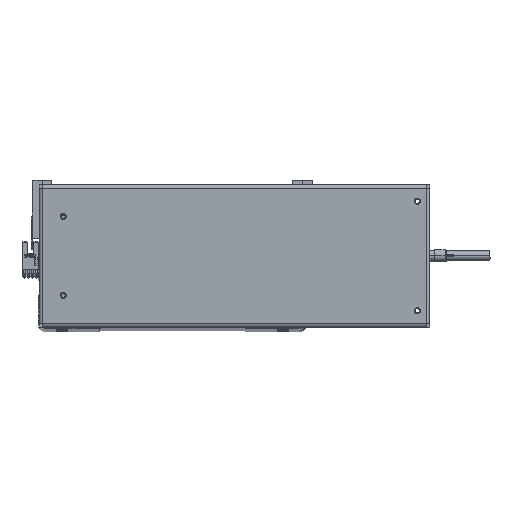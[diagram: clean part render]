
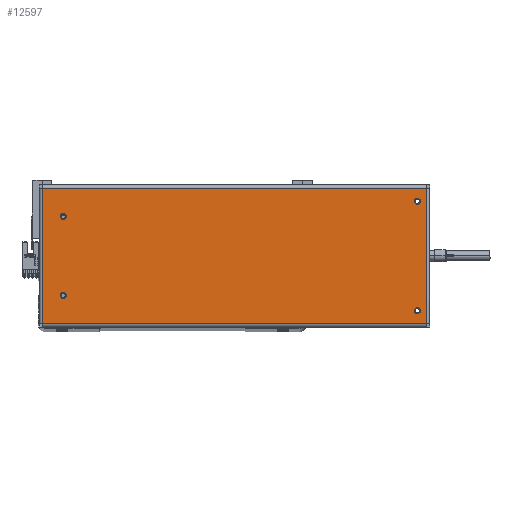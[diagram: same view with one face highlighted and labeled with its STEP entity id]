
A CAD part, top view. The second image highlights one B-rep face of the part: STEP entity #12597.
In plain terms, the highlighted planar face has unit normal (0, 0, 1).
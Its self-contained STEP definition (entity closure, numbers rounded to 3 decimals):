
#33 = CARTESIAN_POINT ( 'NONE',  ( -143., 32.5, 0. ) ) ;
#132 = CARTESIAN_POINT ( 'NONE',  ( 153., 45., 0. ) ) ;
#420 = CARTESIAN_POINT ( 'NONE',  ( -157.6, 55.6, 0. ) ) ;
#460 = ORIENTED_EDGE ( 'NONE', *, *, #26287, .T. ) ;
#591 = VERTEX_POINT ( 'NONE', #420 ) ;
#1467 = AXIS2_PLACEMENT_3D ( 'NONE', #9040, #41381, #41653 ) ;
#1519 = ORIENTED_EDGE ( 'NONE', *, *, #21870, .F. ) ;
#2337 = CARTESIAN_POINT ( 'NONE',  ( 148., 45., 0. ) ) ;
#3926 = FACE_BOUND ( 'NONE', #29352, .T. ) ;
#3999 = CIRCLE ( 'NONE', #24895, 2.5 ) ;
#4596 = VERTEX_POINT ( 'NONE', #38016 ) ;
#5032 = EDGE_LOOP ( 'NONE', ( #25199, #460, #21570, #38828 ) ) ;
#5608 = ORIENTED_EDGE ( 'NONE', *, *, #35307, .F. ) ;
#6142 = CARTESIAN_POINT ( 'NONE',  ( 157.6, 55.6, 0. ) ) ;
#6228 = CIRCLE ( 'NONE', #16971, 2.5 ) ;
#6296 = ORIENTED_EDGE ( 'NONE', *, *, #17192, .F. ) ;
#6563 = VECTOR ( 'NONE', #24400, 1000. ) ;
#7086 = VECTOR ( 'NONE', #14244, 1000. ) ;
#7295 = VERTEX_POINT ( 'NONE', #22935 ) ;
#7605 = DIRECTION ( 'NONE',  ( 1., 0., 0. ) ) ;
#7671 = VECTOR ( 'NONE', #28373, 1000. ) ;
#8060 = CARTESIAN_POINT ( 'NONE',  ( -140.5, 32.5, 0. ) ) ;
#8375 = DIRECTION ( 'NONE',  ( 0., 0., 1. ) ) ;
#8513 = FACE_OUTER_BOUND ( 'NONE', #5032, .T. ) ;
#9040 = CARTESIAN_POINT ( 'NONE',  ( 157.7, 58.5, 0. ) ) ;
#9052 = DIRECTION ( 'NONE',  ( 1., 0., 0. ) ) ;
#9090 = VERTEX_POINT ( 'NONE', #132 ) ;
#9203 = DIRECTION ( 'NONE',  ( 0., 0., 1. ) ) ;
#9253 = EDGE_LOOP ( 'NONE', ( #14643, #32712 ) ) ;
#12553 = DIRECTION ( 'NONE',  ( 0., 0., 1. ) ) ;
#12597 = ADVANCED_FACE ( 'NONE', ( #18180, #32327, #16138, #3926, #8513 ), #19088, .F. ) ;
#12765 = VERTEX_POINT ( 'NONE', #33 ) ;
#12825 = CARTESIAN_POINT ( 'NONE',  ( -140.5, -32.5, 0. ) ) ;
#13238 = CIRCLE ( 'NONE', #35473, 2.5 ) ;
#13806 = VERTEX_POINT ( 'NONE', #20455 ) ;
#14212 = LINE ( 'NONE', #24115, #6563 ) ;
#14244 = DIRECTION ( 'NONE',  ( 1., 0., 0. ) ) ;
#14643 = ORIENTED_EDGE ( 'NONE', *, *, #39527, .F. ) ;
#15633 = CARTESIAN_POINT ( 'NONE',  ( 148., -45., 0. ) ) ;
#15763 = CARTESIAN_POINT ( 'NONE',  ( -157.6, 55.6, 0. ) ) ;
#16084 = DIRECTION ( 'NONE',  ( 1., 0., 0. ) ) ;
#16138 = FACE_BOUND ( 'NONE', #33508, .T. ) ;
#16853 = VERTEX_POINT ( 'NONE', #15633 ) ;
#16971 = AXIS2_PLACEMENT_3D ( 'NONE', #18219, #21618, #40912 ) ;
#17192 = EDGE_CURVE ( 'NONE', #37898, #9090, #30209, .T. ) ;
#18180 = FACE_BOUND ( 'NONE', #9253, .T. ) ;
#18219 = CARTESIAN_POINT ( 'NONE',  ( -140.5, -32.5, 0. ) ) ;
#19088 = PLANE ( 'NONE',  #1467 ) ;
#20181 = CIRCLE ( 'NONE', #39654, 2.5 ) ;
#20235 = ORIENTED_EDGE ( 'NONE', *, *, #22211, .F. ) ;
#20455 = CARTESIAN_POINT ( 'NONE',  ( -143., -32.5, 0. ) ) ;
#20677 = ORIENTED_EDGE ( 'NONE', *, *, #23255, .F. ) ;
#21023 = VERTEX_POINT ( 'NONE', #37982 ) ;
#21246 = AXIS2_PLACEMENT_3D ( 'NONE', #8060, #34538, #37404 ) ;
#21391 = CARTESIAN_POINT ( 'NONE',  ( 150.5, -45., 0. ) ) ;
#21570 = ORIENTED_EDGE ( 'NONE', *, *, #32505, .T. ) ;
#21618 = DIRECTION ( 'NONE',  ( 0., 0., 1. ) ) ;
#21870 = EDGE_CURVE ( 'NONE', #9090, #37898, #13238, .T. ) ;
#22211 = EDGE_CURVE ( 'NONE', #21023, #12765, #3999, .T. ) ;
#22583 = DIRECTION ( 'NONE',  ( 1., 0., 0. ) ) ;
#22935 = CARTESIAN_POINT ( 'NONE',  ( 157.6, -55.6, 0. ) ) ;
#23023 = DIRECTION ( 'NONE',  ( 0., 0., 1. ) ) ;
#23255 = EDGE_CURVE ( 'NONE', #4596, #16853, #20181, .T. ) ;
#24115 = CARTESIAN_POINT ( 'NONE',  ( 157.7, 55.6, 0. ) ) ;
#24400 = DIRECTION ( 'NONE',  ( -1., 0., 0. ) ) ;
#24410 = CIRCLE ( 'NONE', #21246, 2.5 ) ;
#24895 = AXIS2_PLACEMENT_3D ( 'NONE', #38273, #9203, #9052 ) ;
#25055 = CIRCLE ( 'NONE', #33785, 2.5 ) ;
#25199 = ORIENTED_EDGE ( 'NONE', *, *, #31867, .T. ) ;
#25756 = AXIS2_PLACEMENT_3D ( 'NONE', #35786, #23023, #22583 ) ;
#26287 = EDGE_CURVE ( 'NONE', #36090, #7295, #27899, .T. ) ;
#26861 = DIRECTION ( 'NONE',  ( 0., 0., 1. ) ) ;
#27437 = CARTESIAN_POINT ( 'NONE',  ( 150.5, 45., 0. ) ) ;
#27899 = LINE ( 'NONE', #37026, #7086 ) ;
#28373 = DIRECTION ( 'NONE',  ( 0., -1., 0. ) ) ;
#28855 = AXIS2_PLACEMENT_3D ( 'NONE', #32361, #35351, #29001 ) ;
#29001 = DIRECTION ( 'NONE',  ( 1., 0., 0. ) ) ;
#29352 = EDGE_LOOP ( 'NONE', ( #1519, #6296 ) ) ;
#29450 = CARTESIAN_POINT ( 'NONE',  ( 157.6, -55.6, 0. ) ) ;
#30136 = VECTOR ( 'NONE', #38934, 1000. ) ;
#30209 = CIRCLE ( 'NONE', #28855, 2.5 ) ;
#30930 = EDGE_CURVE ( 'NONE', #13806, #38777, #6228, .T. ) ;
#31559 = VERTEX_POINT ( 'NONE', #6142 ) ;
#31867 = EDGE_CURVE ( 'NONE', #591, #36090, #36587, .T. ) ;
#32327 = FACE_BOUND ( 'NONE', #39872, .T. ) ;
#32361 = CARTESIAN_POINT ( 'NONE',  ( 150.5, 45., 0. ) ) ;
#32505 = EDGE_CURVE ( 'NONE', #7295, #31559, #34704, .T. ) ;
#32712 = ORIENTED_EDGE ( 'NONE', *, *, #30930, .F. ) ;
#33508 = EDGE_LOOP ( 'NONE', ( #20677, #5608 ) ) ;
#33785 = AXIS2_PLACEMENT_3D ( 'NONE', #12825, #12553, #16084 ) ;
#33981 = CARTESIAN_POINT ( 'NONE',  ( -138., -32.5, 0. ) ) ;
#34068 = ORIENTED_EDGE ( 'NONE', *, *, #37736, .F. ) ;
#34538 = DIRECTION ( 'NONE',  ( 0., 0., 1. ) ) ;
#34704 = LINE ( 'NONE', #29450, #30136 ) ;
#35213 = CIRCLE ( 'NONE', #25756, 2.5 ) ;
#35307 = EDGE_CURVE ( 'NONE', #16853, #4596, #35213, .T. ) ;
#35351 = DIRECTION ( 'NONE',  ( 0., 0., 1. ) ) ;
#35473 = AXIS2_PLACEMENT_3D ( 'NONE', #27437, #26861, #7605 ) ;
#35786 = CARTESIAN_POINT ( 'NONE',  ( 150.5, -45., 0. ) ) ;
#36090 = VERTEX_POINT ( 'NONE', #41819 ) ;
#36587 = LINE ( 'NONE', #15763, #7671 ) ;
#37026 = CARTESIAN_POINT ( 'NONE',  ( -157.7, -55.6, 0. ) ) ;
#37404 = DIRECTION ( 'NONE',  ( 1., 0., 0. ) ) ;
#37736 = EDGE_CURVE ( 'NONE', #12765, #21023, #24410, .T. ) ;
#37898 = VERTEX_POINT ( 'NONE', #2337 ) ;
#37982 = CARTESIAN_POINT ( 'NONE',  ( -138., 32.5, 0. ) ) ;
#38016 = CARTESIAN_POINT ( 'NONE',  ( 153., -45., 0. ) ) ;
#38273 = CARTESIAN_POINT ( 'NONE',  ( -140.5, 32.5, 0. ) ) ;
#38777 = VERTEX_POINT ( 'NONE', #33981 ) ;
#38828 = ORIENTED_EDGE ( 'NONE', *, *, #39309, .T. ) ;
#38934 = DIRECTION ( 'NONE',  ( 0., 1., 0. ) ) ;
#39309 = EDGE_CURVE ( 'NONE', #31559, #591, #14212, .T. ) ;
#39527 = EDGE_CURVE ( 'NONE', #38777, #13806, #25055, .T. ) ;
#39654 = AXIS2_PLACEMENT_3D ( 'NONE', #21391, #8375, #41113 ) ;
#39872 = EDGE_LOOP ( 'NONE', ( #20235, #34068 ) ) ;
#40912 = DIRECTION ( 'NONE',  ( 1., 0., 0. ) ) ;
#41113 = DIRECTION ( 'NONE',  ( 1., 0., 0. ) ) ;
#41381 = DIRECTION ( 'NONE',  ( 0., 0., -1. ) ) ;
#41653 = DIRECTION ( 'NONE',  ( -1., 0., 0. ) ) ;
#41819 = CARTESIAN_POINT ( 'NONE',  ( -157.6, -55.6, 0. ) ) ;
